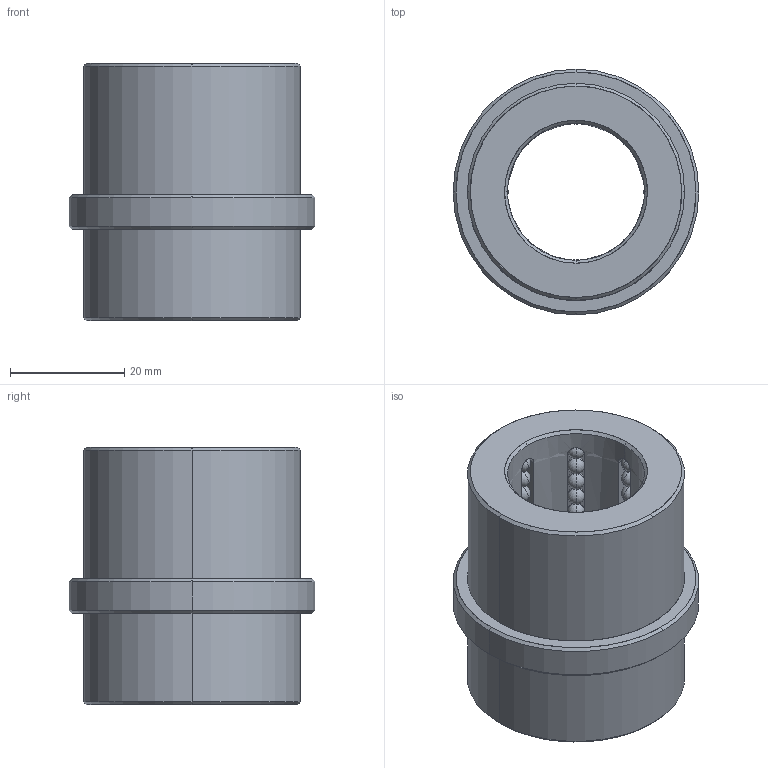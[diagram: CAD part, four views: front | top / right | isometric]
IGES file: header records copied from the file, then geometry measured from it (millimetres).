
Start section: START RECORD GO HERE.
Global section: file name: B8122445.igs; native system: DASSAULT SYSTEMES CATIA V5 R20 - www.3ds.com; preprocessor: CATIA Version 5 Release 20 ; author: Utente; organization: NB04-ASUS; date: 20200419.171133; units: millimetre
Bounding box: 43 x 43 x 45 mm (x, y, z)
Surface area: 15279.5 mm2 (no closed solid volume)
Topology: 0 solids, 0 shells, 460 faces, 1908 edges, 1140 vertices
Faces by surface type: revolution 432, plane 28
